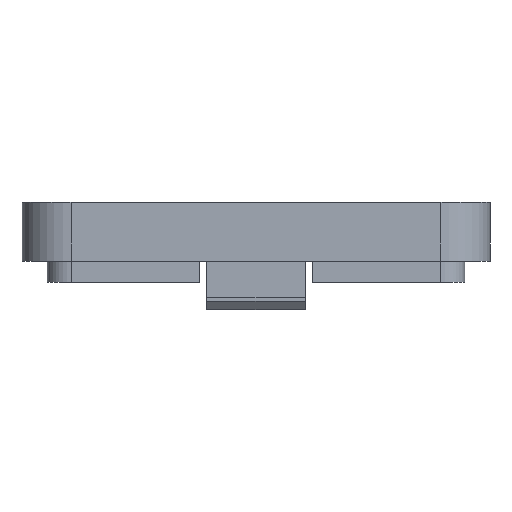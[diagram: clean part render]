
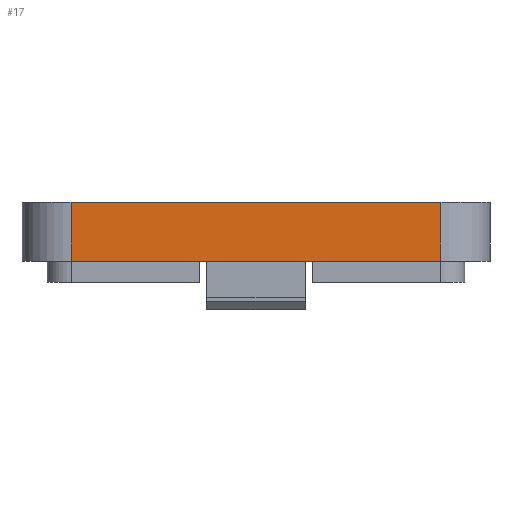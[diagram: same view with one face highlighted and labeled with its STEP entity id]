
A CAD part, left-side view. The second image highlights one B-rep face of the part: STEP entity #17.
In plain terms, the highlighted planar face has unit normal (-1, 0, 0).
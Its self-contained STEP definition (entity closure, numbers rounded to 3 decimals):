
#17 = ADVANCED_FACE('',(#18),#32,.F.);
#18 = FACE_BOUND('',#19,.F.);
#19 = EDGE_LOOP('',(#20,#55,#83,#111));
#20 = ORIENTED_EDGE('',*,*,#21,.F.);
#21 = EDGE_CURVE('',#22,#24,#26,.T.);
#22 = VERTEX_POINT('',#23);
#23 = CARTESIAN_POINT('',(-25.65,-13.2,12.2));
#24 = VERTEX_POINT('',#25);
#25 = CARTESIAN_POINT('',(-25.65,13.2,12.2));
#26 = SURFACE_CURVE('',#27,(#31,#43),.PCURVE_S1.);
#27 = LINE('',#28,#29);
#28 = CARTESIAN_POINT('',(-25.65,-16.7,12.2));
#29 = VECTOR('',#30,1.);
#30 = DIRECTION('',(0.,1.,0.));
#31 = PCURVE('',#32,#37);
#32 = PLANE('',#33);
#33 = AXIS2_PLACEMENT_3D('',#34,#35,#36);
#34 = CARTESIAN_POINT('',(-25.65,-16.7,8.));
#35 = DIRECTION('',(1.,0.,0.));
#36 = DIRECTION('',(0.,0.,1.));
#37 = DEFINITIONAL_REPRESENTATION('',(#38),#42);
#38 = LINE('',#39,#40);
#39 = CARTESIAN_POINT('',(4.2,0.));
#40 = VECTOR('',#41,1.);
#41 = DIRECTION('',(0.,-1.));
#42 = ( GEOMETRIC_REPRESENTATION_CONTEXT(2) 
PARAMETRIC_REPRESENTATION_CONTEXT() REPRESENTATION_CONTEXT('2D SPACE',''
  ) );
#43 = PCURVE('',#44,#49);
#44 = PLANE('',#45);
#45 = AXIS2_PLACEMENT_3D('',#46,#47,#48);
#46 = CARTESIAN_POINT('',(-25.65,-16.7,12.2));
#47 = DIRECTION('',(0.,0.,1.));
#48 = DIRECTION('',(1.,0.,0.));
#49 = DEFINITIONAL_REPRESENTATION('',(#50),#54);
#50 = LINE('',#51,#52);
#51 = CARTESIAN_POINT('',(0.,0.));
#52 = VECTOR('',#53,1.);
#53 = DIRECTION('',(0.,1.));
#54 = ( GEOMETRIC_REPRESENTATION_CONTEXT(2) 
PARAMETRIC_REPRESENTATION_CONTEXT() REPRESENTATION_CONTEXT('2D SPACE',''
  ) );
#55 = ORIENTED_EDGE('',*,*,#56,.F.);
#56 = EDGE_CURVE('',#57,#22,#59,.T.);
#57 = VERTEX_POINT('',#58);
#58 = CARTESIAN_POINT('',(-25.65,-13.2,8.));
#59 = SURFACE_CURVE('',#60,(#64,#71),.PCURVE_S1.);
#60 = LINE('',#61,#62);
#61 = CARTESIAN_POINT('',(-25.65,-13.2,8.));
#62 = VECTOR('',#63,1.);
#63 = DIRECTION('',(0.,0.,1.));
#64 = PCURVE('',#32,#65);
#65 = DEFINITIONAL_REPRESENTATION('',(#66),#70);
#66 = LINE('',#67,#68);
#67 = CARTESIAN_POINT('',(0.,-3.5));
#68 = VECTOR('',#69,1.);
#69 = DIRECTION('',(1.,0.));
#70 = ( GEOMETRIC_REPRESENTATION_CONTEXT(2) 
PARAMETRIC_REPRESENTATION_CONTEXT() REPRESENTATION_CONTEXT('2D SPACE',''
  ) );
#71 = PCURVE('',#72,#77);
#72 = CYLINDRICAL_SURFACE('',#73,3.5);
#73 = AXIS2_PLACEMENT_3D('',#74,#75,#76);
#74 = CARTESIAN_POINT('',(-22.15,-13.2,8.));
#75 = DIRECTION('',(0.,0.,1.));
#76 = DIRECTION('',(-1.,-0.,0.));
#77 = DEFINITIONAL_REPRESENTATION('',(#78),#82);
#78 = LINE('',#79,#80);
#79 = CARTESIAN_POINT('',(0.,0.));
#80 = VECTOR('',#81,1.);
#81 = DIRECTION('',(0.,1.));
#82 = ( GEOMETRIC_REPRESENTATION_CONTEXT(2) 
PARAMETRIC_REPRESENTATION_CONTEXT() REPRESENTATION_CONTEXT('2D SPACE',''
  ) );
#83 = ORIENTED_EDGE('',*,*,#84,.T.);
#84 = EDGE_CURVE('',#57,#85,#87,.T.);
#85 = VERTEX_POINT('',#86);
#86 = CARTESIAN_POINT('',(-25.65,13.2,8.));
#87 = SURFACE_CURVE('',#88,(#92,#99),.PCURVE_S1.);
#88 = LINE('',#89,#90);
#89 = CARTESIAN_POINT('',(-25.65,-16.7,8.));
#90 = VECTOR('',#91,1.);
#91 = DIRECTION('',(0.,1.,0.));
#92 = PCURVE('',#32,#93);
#93 = DEFINITIONAL_REPRESENTATION('',(#94),#98);
#94 = LINE('',#95,#96);
#95 = CARTESIAN_POINT('',(0.,0.));
#96 = VECTOR('',#97,1.);
#97 = DIRECTION('',(0.,-1.));
#98 = ( GEOMETRIC_REPRESENTATION_CONTEXT(2) 
PARAMETRIC_REPRESENTATION_CONTEXT() REPRESENTATION_CONTEXT('2D SPACE',''
  ) );
#99 = PCURVE('',#100,#105);
#100 = PLANE('',#101);
#101 = AXIS2_PLACEMENT_3D('',#102,#103,#104);
#102 = CARTESIAN_POINT('',(-25.65,-16.7,8.));
#103 = DIRECTION('',(0.,0.,1.));
#104 = DIRECTION('',(1.,0.,0.));
#105 = DEFINITIONAL_REPRESENTATION('',(#106),#110);
#106 = LINE('',#107,#108);
#107 = CARTESIAN_POINT('',(0.,0.));
#108 = VECTOR('',#109,1.);
#109 = DIRECTION('',(0.,1.));
#110 = ( GEOMETRIC_REPRESENTATION_CONTEXT(2) 
PARAMETRIC_REPRESENTATION_CONTEXT() REPRESENTATION_CONTEXT('2D SPACE',''
  ) );
#111 = ORIENTED_EDGE('',*,*,#112,.T.);
#112 = EDGE_CURVE('',#85,#24,#113,.T.);
#113 = SURFACE_CURVE('',#114,(#118,#125),.PCURVE_S1.);
#114 = LINE('',#115,#116);
#115 = CARTESIAN_POINT('',(-25.65,13.2,8.));
#116 = VECTOR('',#117,1.);
#117 = DIRECTION('',(0.,0.,1.));
#118 = PCURVE('',#32,#119);
#119 = DEFINITIONAL_REPRESENTATION('',(#120),#124);
#120 = LINE('',#121,#122);
#121 = CARTESIAN_POINT('',(0.,-29.9));
#122 = VECTOR('',#123,1.);
#123 = DIRECTION('',(1.,0.));
#124 = ( GEOMETRIC_REPRESENTATION_CONTEXT(2) 
PARAMETRIC_REPRESENTATION_CONTEXT() REPRESENTATION_CONTEXT('2D SPACE',''
  ) );
#125 = PCURVE('',#126,#131);
#126 = CYLINDRICAL_SURFACE('',#127,3.5);
#127 = AXIS2_PLACEMENT_3D('',#128,#129,#130);
#128 = CARTESIAN_POINT('',(-22.15,13.2,8.));
#129 = DIRECTION('',(0.,0.,1.));
#130 = DIRECTION('',(-1.,-0.,0.));
#131 = DEFINITIONAL_REPRESENTATION('',(#132),#136);
#132 = LINE('',#133,#134);
#133 = CARTESIAN_POINT('',(-0.,0.));
#134 = VECTOR('',#135,1.);
#135 = DIRECTION('',(-0.,1.));
#136 = ( GEOMETRIC_REPRESENTATION_CONTEXT(2) 
PARAMETRIC_REPRESENTATION_CONTEXT() REPRESENTATION_CONTEXT('2D SPACE',''
  ) );
